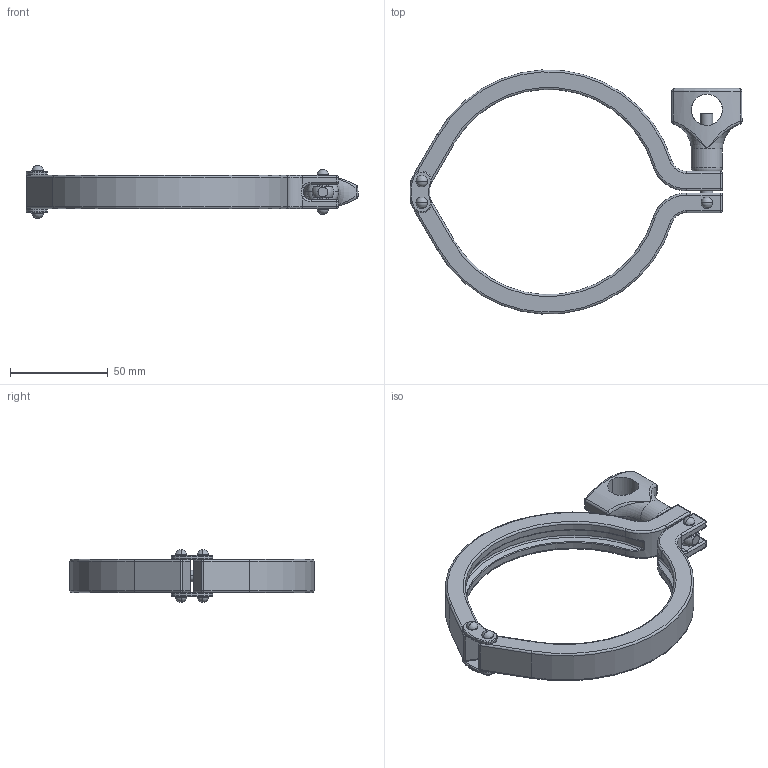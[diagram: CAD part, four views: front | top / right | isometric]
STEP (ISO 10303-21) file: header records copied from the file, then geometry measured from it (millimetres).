
FILE_DESCRIPTION (( 'STEP AP203' ), '1' );
FILE_NAME ('13MHHMD4.0-H.STEP', '2022-06-07T02:54:46', ( '' ), ( '' ), 'SwSTEP 2.0', 'SolidWorks 2014', '' );
FILE_SCHEMA (( 'CONFIG_CONTROL_DESIGN' ));
Length unit declared in the file: millimetre
Products named in the file (10): 13MHHD-PARTS-2; 13MHHD4.0-2; 13MHHD-PARTS; 13MHHD4.0-1; 13MHHM-PART-4; 13MHHD-PARTS-3; Wing Nut 14; 13MHHD-2; 13MHHD-PARTS-1; 13MHHMD4.0-H
Assembly tree (12 placements, depth 2):
  13MHHMD4.0-H
    13MHHD4.0-1
    13MHHD-PARTS  x2
    13MHHD-PARTS-1  x2
    13MHHD-PARTS-2
    13MHHD-PARTS-3
    13MHHD-2  x2
    13MHHD4.0-2
    13MHHM-PART-4
    Wing Nut 14
Bounding box: 169.99 x 124.94 x 27 mm (x, y, z)
Volume: 72641.6 mm3; surface area: 32240.5 mm2
Topology: 12 solids, 12 shells, 393 faces, 909 edges, 510 vertices
Faces by surface type: cylinder 136, torus 96, plane 57, bspline 54, sphere 46, cone 4
Entity records: 12853 total; most frequent: CARTESIAN_POINT 4105, DIRECTION 1731, ORIENTED_EDGE 1538, EDGE_CURVE 769, AXIS2_PLACEMENT_3D 768, CIRCLE 457, VERTEX_POINT 442, EDGE_LOOP 373
